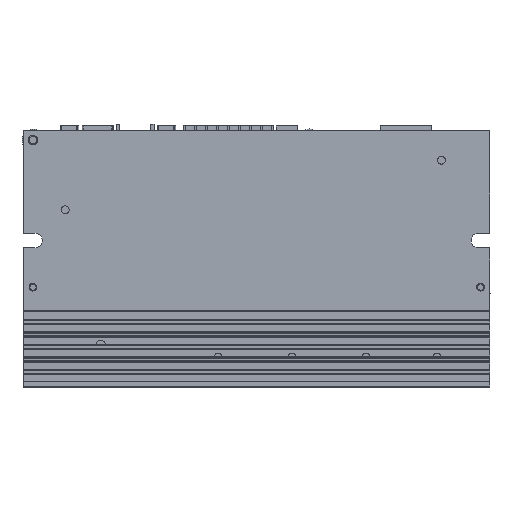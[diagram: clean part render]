
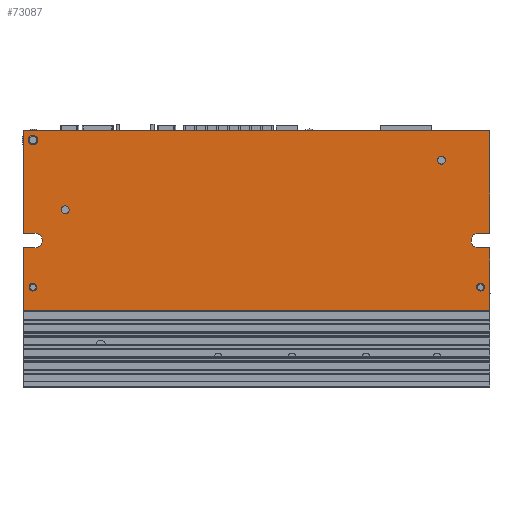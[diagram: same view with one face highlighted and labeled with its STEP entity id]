
A CAD part, front view. The second image highlights one B-rep face of the part: STEP entity #73087.
In plain terms, the highlighted planar face has unit normal (0, -1, 0).
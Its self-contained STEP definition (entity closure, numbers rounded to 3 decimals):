
#1847=CIRCLE('',#76522,1.25);
#1848=CIRCLE('',#76523,1.25);
#1849=CIRCLE('',#76524,2.35);
#1850=CIRCLE('',#76525,2.35);
#1851=CIRCLE('',#76526,1.5);
#1852=CIRCLE('',#76527,1.25);
#1853=CIRCLE('',#76528,1.25);
#3926=ORIENTED_EDGE('',*,*,#21857,.T.);
#3927=ORIENTED_EDGE('',*,*,#21858,.T.);
#3928=ORIENTED_EDGE('',*,*,#21859,.F.);
#3929=ORIENTED_EDGE('',*,*,#21860,.F.);
#3930=ORIENTED_EDGE('',*,*,#21861,.T.);
#3931=ORIENTED_EDGE('',*,*,#21862,.F.);
#3932=ORIENTED_EDGE('',*,*,#21863,.T.);
#3933=ORIENTED_EDGE('',*,*,#21864,.T.);
#3934=ORIENTED_EDGE('',*,*,#21865,.F.);
#3935=ORIENTED_EDGE('',*,*,#21866,.F.);
#3936=ORIENTED_EDGE('',*,*,#21867,.T.);
#3937=ORIENTED_EDGE('',*,*,#21832,.F.);
#3938=ORIENTED_EDGE('',*,*,#21856,.T.);
#3939=ORIENTED_EDGE('',*,*,#21868,.T.);
#3940=ORIENTED_EDGE('',*,*,#21869,.F.);
#3941=ORIENTED_EDGE('',*,*,#21870,.F.);
#3942=ORIENTED_EDGE('',*,*,#21871,.F.);
#21832=EDGE_CURVE('',#30836,#30837,#36820,.T.);
#21856=EDGE_CURVE('',#30836,#30857,#36836,.T.);
#21857=EDGE_CURVE('',#30858,#30858,#1847,.T.);
#21858=EDGE_CURVE('',#30859,#30859,#1848,.T.);
#21859=EDGE_CURVE('',#30860,#30861,#36837,.T.);
#21860=EDGE_CURVE('',#30862,#30860,#36838,.T.);
#21861=EDGE_CURVE('',#30862,#30863,#36839,.T.);
#21862=EDGE_CURVE('',#30864,#30863,#36840,.T.);
#21863=EDGE_CURVE('',#30864,#30865,#36841,.T.);
#21864=EDGE_CURVE('',#30865,#30866,#1849,.T.);
#21865=EDGE_CURVE('',#30867,#30866,#36842,.T.);
#21866=EDGE_CURVE('',#30868,#30867,#36843,.T.);
#21867=EDGE_CURVE('',#30868,#30837,#36844,.T.);
#21868=EDGE_CURVE('',#30857,#30861,#1850,.T.);
#21869=EDGE_CURVE('',#30869,#30869,#1851,.T.);
#21870=EDGE_CURVE('',#30870,#30870,#1852,.T.);
#21871=EDGE_CURVE('',#30871,#30871,#1853,.T.);
#30836=VERTEX_POINT('',#98739);
#30837=VERTEX_POINT('',#98741);
#30857=VERTEX_POINT('',#98787);
#30858=VERTEX_POINT('',#98791);
#30859=VERTEX_POINT('',#98793);
#30860=VERTEX_POINT('',#98795);
#30861=VERTEX_POINT('',#98796);
#30862=VERTEX_POINT('',#98798);
#30863=VERTEX_POINT('',#98800);
#30864=VERTEX_POINT('',#98802);
#30865=VERTEX_POINT('',#98804);
#30866=VERTEX_POINT('',#98806);
#30867=VERTEX_POINT('',#98808);
#30868=VERTEX_POINT('',#98810);
#30869=VERTEX_POINT('',#98814);
#30870=VERTEX_POINT('',#98816);
#30871=VERTEX_POINT('',#98818);
#36820=LINE('',#98740,#43359);
#36836=LINE('',#98788,#43375);
#36837=LINE('',#98794,#43376);
#36838=LINE('',#98797,#43377);
#36839=LINE('',#98799,#43378);
#36840=LINE('',#98801,#43379);
#36841=LINE('',#98803,#43380);
#36842=LINE('',#98807,#43381);
#36843=LINE('',#98809,#43382);
#36844=LINE('',#98811,#43383);
#43359=VECTOR('',#81743,1000.);
#43375=VECTOR('',#81781,1000.);
#43376=VECTOR('',#81788,1000.);
#43377=VECTOR('',#81789,1000.);
#43378=VECTOR('',#81790,1000.);
#43379=VECTOR('',#81791,1000.);
#43380=VECTOR('',#81792,1000.);
#43381=VECTOR('',#81795,1000.);
#43382=VECTOR('',#81796,1000.);
#43383=VECTOR('',#81797,1000.);
#49903=EDGE_LOOP('',(#3926));
#49904=EDGE_LOOP('',(#3927));
#49905=EDGE_LOOP('',(#3928,#3929,#3930,#3931,#3932,#3933,#3934,#3935,#3936,
#3937,#3938,#3939));
#49906=EDGE_LOOP('',(#3940));
#49907=EDGE_LOOP('',(#3941));
#49908=EDGE_LOOP('',(#3942));
#53854=FACE_BOUND('',#49903,.T.);
#53855=FACE_BOUND('',#49904,.T.);
#53856=FACE_BOUND('',#49905,.T.);
#53857=FACE_BOUND('',#49906,.T.);
#53858=FACE_BOUND('',#49907,.T.);
#53859=FACE_BOUND('',#49908,.T.);
#57800=PLANE('',#76521);
#73087=ADVANCED_FACE('',(#53854,#53855,#53856,#53857,#53858,#53859),#57800,
 .T.);
#76521=AXIS2_PLACEMENT_3D('',#98789,#81782,#81783);
#76522=AXIS2_PLACEMENT_3D('',#98790,#81784,#81785);
#76523=AXIS2_PLACEMENT_3D('',#98792,#81786,#81787);
#76524=AXIS2_PLACEMENT_3D('',#98805,#81793,#81794);
#76525=AXIS2_PLACEMENT_3D('',#98812,#81798,#81799);
#76526=AXIS2_PLACEMENT_3D('',#98813,#81800,#81801);
#76527=AXIS2_PLACEMENT_3D('',#98815,#81802,#81803);
#76528=AXIS2_PLACEMENT_3D('',#98817,#81804,#81805);
#81743=DIRECTION('',(0.,0.,1.));
#81781=DIRECTION('',(1.,0.,0.));
#81782=DIRECTION('',(0.,-1.,0.));
#81783=DIRECTION('',(0.,0.,-1.));
#81784=DIRECTION('',(0.,1.,0.));
#81785=DIRECTION('',(-1.,0.,0.));
#81786=DIRECTION('',(0.,1.,0.));
#81787=DIRECTION('',(-1.,0.,0.));
#81788=DIRECTION('',(1.,0.,0.));
#81789=DIRECTION('',(0.,0.,1.));
#81790=DIRECTION('',(1.,0.,0.));
#81791=DIRECTION('',(0.,0.,-1.));
#81792=DIRECTION('',(-1.,0.,0.));
#81793=DIRECTION('',(0.,1.,0.));
#81794=DIRECTION('',(0.,0.,-1.));
#81795=DIRECTION('',(-1.,0.,0.));
#81796=DIRECTION('',(0.,0.,-1.));
#81797=DIRECTION('',(-1.,0.,0.));
#81798=DIRECTION('',(0.,1.,0.));
#81799=DIRECTION('',(0.,0.,1.));
#81800=DIRECTION('',(0.,-1.,0.));
#81801=DIRECTION('',(-1.,0.,0.));
#81802=DIRECTION('',(0.,-1.,0.));
#81803=DIRECTION('',(-1.,0.,0.));
#81804=DIRECTION('',(0.,-1.,0.));
#81805=DIRECTION('',(-1.,0.,0.));
#98739=CARTESIAN_POINT('',(0.,7.3,-1.7));
#98740=CARTESIAN_POINT('',(0.,7.3,-1.7));
#98741=CARTESIAN_POINT('',(0.,7.3,31.));
#98787=CARTESIAN_POINT('',(3.65,7.3,-1.7));
#98788=CARTESIAN_POINT('',(0.,7.3,-1.7));
#98789=CARTESIAN_POINT('',(148.8,7.3,-25.5));
#98790=CARTESIAN_POINT('',(145.8,7.3,-18.9));
#98791=CARTESIAN_POINT('',(144.55,7.3,-18.9));
#98792=CARTESIAN_POINT('',(3.,7.3,-18.9));
#98793=CARTESIAN_POINT('',(1.75,7.3,-18.9));
#98794=CARTESIAN_POINT('',(0.,7.3,-6.4));
#98795=CARTESIAN_POINT('',(0.,7.3,-6.4));
#98796=CARTESIAN_POINT('',(3.65,7.3,-6.4));
#98797=CARTESIAN_POINT('',(0.,7.3,-26.3));
#98798=CARTESIAN_POINT('',(0.,7.3,-26.3));
#98799=CARTESIAN_POINT('',(0.,7.3,-26.3));
#98800=CARTESIAN_POINT('',(148.8,7.3,-26.3));
#98801=CARTESIAN_POINT('',(148.8,7.3,-6.4));
#98802=CARTESIAN_POINT('',(148.8,7.3,-6.4));
#98803=CARTESIAN_POINT('',(148.8,7.3,-6.4));
#98804=CARTESIAN_POINT('',(145.15,7.3,-6.4));
#98805=CARTESIAN_POINT('',(145.15,7.3,-4.05));
#98806=CARTESIAN_POINT('',(145.15,7.3,-1.7));
#98807=CARTESIAN_POINT('',(148.8,7.3,-1.7));
#98808=CARTESIAN_POINT('',(148.8,7.3,-1.7));
#98809=CARTESIAN_POINT('',(148.8,7.3,31.));
#98810=CARTESIAN_POINT('',(148.8,7.3,31.));
#98811=CARTESIAN_POINT('',(148.8,7.3,31.));
#98812=CARTESIAN_POINT('',(3.65,7.3,-4.05));
#98813=CARTESIAN_POINT('',(3.,7.3,28.));
#98814=CARTESIAN_POINT('',(1.5,7.3,28.));
#98815=CARTESIAN_POINT('',(13.3,7.3,5.8));
#98816=CARTESIAN_POINT('',(12.05,7.3,5.8));
#98817=CARTESIAN_POINT('',(133.3,7.3,21.6));
#98818=CARTESIAN_POINT('',(132.05,7.3,21.6));
